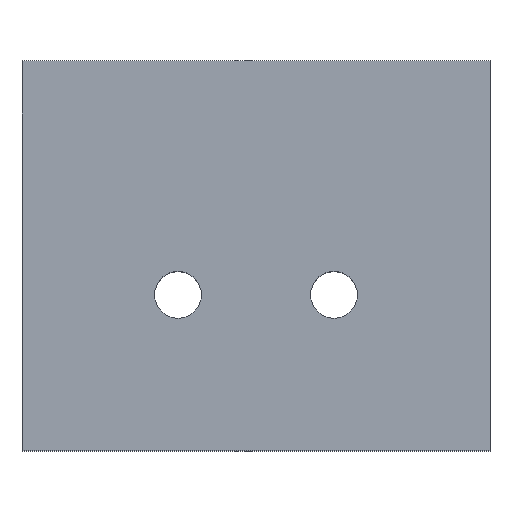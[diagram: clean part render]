
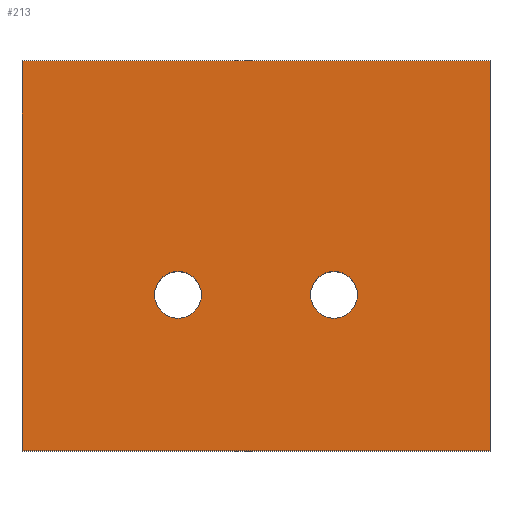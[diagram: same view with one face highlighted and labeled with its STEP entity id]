
A CAD part, top view. The second image highlights one B-rep face of the part: STEP entity #213.
In plain terms, the highlighted planar face has unit normal (0, 0, 1).
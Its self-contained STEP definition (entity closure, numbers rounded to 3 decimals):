
#24 = VERTEX_POINT('',#25);
#25 = CARTESIAN_POINT('',(0.,0.,4.));
#32 = PLANE('',#33);
#33 = AXIS2_PLACEMENT_3D('',#34,#35,#36);
#34 = CARTESIAN_POINT('',(0.,0.,0.));
#35 = DIRECTION('',(1.,0.,-0.));
#36 = DIRECTION('',(0.,0.,1.));
#44 = PLANE('',#45);
#45 = AXIS2_PLACEMENT_3D('',#46,#47,#48);
#46 = CARTESIAN_POINT('',(0.,0.,0.));
#47 = DIRECTION('',(-0.,1.,0.));
#48 = DIRECTION('',(0.,0.,1.));
#85 = VERTEX_POINT('',#86);
#86 = CARTESIAN_POINT('',(0.,10.,4.));
#100 = PLANE('',#101);
#101 = AXIS2_PLACEMENT_3D('',#102,#103,#104);
#102 = CARTESIAN_POINT('',(0.,10.,0.));
#103 = DIRECTION('',(-0.,1.,0.));
#104 = DIRECTION('',(0.,0.,1.));
#112 = EDGE_CURVE('',#24,#85,#113,.T.);
#113 = SURFACE_CURVE('',#114,(#118,#125),.PCURVE_S1.);
#114 = LINE('',#115,#116);
#115 = CARTESIAN_POINT('',(0.,0.,4.));
#116 = VECTOR('',#117,1.);
#117 = DIRECTION('',(-0.,1.,0.));
#118 = PCURVE('',#32,#119);
#119 = DEFINITIONAL_REPRESENTATION('',(#120),#124);
#120 = LINE('',#121,#122);
#121 = CARTESIAN_POINT('',(4.,0.));
#122 = VECTOR('',#123,1.);
#123 = DIRECTION('',(0.,-1.));
#124 = ( GEOMETRIC_REPRESENTATION_CONTEXT(2) 
PARAMETRIC_REPRESENTATION_CONTEXT() REPRESENTATION_CONTEXT('2D SPACE',''
  ) );
#125 = PCURVE('',#126,#131);
#126 = PLANE('',#127);
#127 = AXIS2_PLACEMENT_3D('',#128,#129,#130);
#128 = CARTESIAN_POINT('',(0.,0.,4.));
#129 = DIRECTION('',(0.,0.,1.));
#130 = DIRECTION('',(1.,0.,-0.));
#131 = DEFINITIONAL_REPRESENTATION('',(#132),#136);
#132 = LINE('',#133,#134);
#133 = CARTESIAN_POINT('',(0.,0.));
#134 = VECTOR('',#135,1.);
#135 = DIRECTION('',(0.,1.));
#136 = ( GEOMETRIC_REPRESENTATION_CONTEXT(2) 
PARAMETRIC_REPRESENTATION_CONTEXT() REPRESENTATION_CONTEXT('2D SPACE',''
  ) );
#165 = EDGE_CURVE('',#24,#166,#168,.T.);
#166 = VERTEX_POINT('',#167);
#167 = CARTESIAN_POINT('',(12.,0.,4.));
#168 = SURFACE_CURVE('',#169,(#173,#180),.PCURVE_S1.);
#169 = LINE('',#170,#171);
#170 = CARTESIAN_POINT('',(0.,0.,4.));
#171 = VECTOR('',#172,1.);
#172 = DIRECTION('',(1.,0.,-0.));
#173 = PCURVE('',#44,#174);
#174 = DEFINITIONAL_REPRESENTATION('',(#175),#179);
#175 = LINE('',#176,#177);
#176 = CARTESIAN_POINT('',(4.,0.));
#177 = VECTOR('',#178,1.);
#178 = DIRECTION('',(0.,1.));
#179 = ( GEOMETRIC_REPRESENTATION_CONTEXT(2) 
PARAMETRIC_REPRESENTATION_CONTEXT() REPRESENTATION_CONTEXT('2D SPACE',''
  ) );
#180 = PCURVE('',#126,#181);
#181 = DEFINITIONAL_REPRESENTATION('',(#182),#186);
#182 = LINE('',#183,#184);
#183 = CARTESIAN_POINT('',(0.,0.));
#184 = VECTOR('',#185,1.);
#185 = DIRECTION('',(1.,0.));
#186 = ( GEOMETRIC_REPRESENTATION_CONTEXT(2) 
PARAMETRIC_REPRESENTATION_CONTEXT() REPRESENTATION_CONTEXT('2D SPACE',''
  ) );
#202 = PLANE('',#203);
#203 = AXIS2_PLACEMENT_3D('',#204,#205,#206);
#204 = CARTESIAN_POINT('',(12.,0.,0.));
#205 = DIRECTION('',(1.,0.,-0.));
#206 = DIRECTION('',(0.,0.,1.));
#213 = ADVANCED_FACE('',(#214,#262,#293),#126,.T.);
#214 = FACE_BOUND('',#215,.T.);
#215 = EDGE_LOOP('',(#216,#217,#218,#241));
#216 = ORIENTED_EDGE('',*,*,#112,.F.);
#217 = ORIENTED_EDGE('',*,*,#165,.T.);
#218 = ORIENTED_EDGE('',*,*,#219,.T.);
#219 = EDGE_CURVE('',#166,#220,#222,.T.);
#220 = VERTEX_POINT('',#221);
#221 = CARTESIAN_POINT('',(12.,10.,4.));
#222 = SURFACE_CURVE('',#223,(#227,#234),.PCURVE_S1.);
#223 = LINE('',#224,#225);
#224 = CARTESIAN_POINT('',(12.,0.,4.));
#225 = VECTOR('',#226,1.);
#226 = DIRECTION('',(-0.,1.,0.));
#227 = PCURVE('',#126,#228);
#228 = DEFINITIONAL_REPRESENTATION('',(#229),#233);
#229 = LINE('',#230,#231);
#230 = CARTESIAN_POINT('',(12.,0.));
#231 = VECTOR('',#232,1.);
#232 = DIRECTION('',(0.,1.));
#233 = ( GEOMETRIC_REPRESENTATION_CONTEXT(2) 
PARAMETRIC_REPRESENTATION_CONTEXT() REPRESENTATION_CONTEXT('2D SPACE',''
  ) );
#234 = PCURVE('',#202,#235);
#235 = DEFINITIONAL_REPRESENTATION('',(#236),#240);
#236 = LINE('',#237,#238);
#237 = CARTESIAN_POINT('',(4.,0.));
#238 = VECTOR('',#239,1.);
#239 = DIRECTION('',(0.,-1.));
#240 = ( GEOMETRIC_REPRESENTATION_CONTEXT(2) 
PARAMETRIC_REPRESENTATION_CONTEXT() REPRESENTATION_CONTEXT('2D SPACE',''
  ) );
#241 = ORIENTED_EDGE('',*,*,#242,.F.);
#242 = EDGE_CURVE('',#85,#220,#243,.T.);
#243 = SURFACE_CURVE('',#244,(#248,#255),.PCURVE_S1.);
#244 = LINE('',#245,#246);
#245 = CARTESIAN_POINT('',(0.,10.,4.));
#246 = VECTOR('',#247,1.);
#247 = DIRECTION('',(1.,0.,-0.));
#248 = PCURVE('',#126,#249);
#249 = DEFINITIONAL_REPRESENTATION('',(#250),#254);
#250 = LINE('',#251,#252);
#251 = CARTESIAN_POINT('',(0.,10.));
#252 = VECTOR('',#253,1.);
#253 = DIRECTION('',(1.,0.));
#254 = ( GEOMETRIC_REPRESENTATION_CONTEXT(2) 
PARAMETRIC_REPRESENTATION_CONTEXT() REPRESENTATION_CONTEXT('2D SPACE',''
  ) );
#255 = PCURVE('',#100,#256);
#256 = DEFINITIONAL_REPRESENTATION('',(#257),#261);
#257 = LINE('',#258,#259);
#258 = CARTESIAN_POINT('',(4.,0.));
#259 = VECTOR('',#260,1.);
#260 = DIRECTION('',(0.,1.));
#261 = ( GEOMETRIC_REPRESENTATION_CONTEXT(2) 
PARAMETRIC_REPRESENTATION_CONTEXT() REPRESENTATION_CONTEXT('2D SPACE',''
  ) );
#262 = FACE_BOUND('',#263,.T.);
#263 = EDGE_LOOP('',(#264));
#264 = ORIENTED_EDGE('',*,*,#265,.F.);
#265 = EDGE_CURVE('',#266,#266,#268,.T.);
#266 = VERTEX_POINT('',#267);
#267 = CARTESIAN_POINT('',(4.6,4.,4.));
#268 = SURFACE_CURVE('',#269,(#274,#281),.PCURVE_S1.);
#269 = CIRCLE('',#270,0.6);
#270 = AXIS2_PLACEMENT_3D('',#271,#272,#273);
#271 = CARTESIAN_POINT('',(4.,4.,4.));
#272 = DIRECTION('',(0.,0.,1.));
#273 = DIRECTION('',(1.,0.,-0.));
#274 = PCURVE('',#126,#275);
#275 = DEFINITIONAL_REPRESENTATION('',(#276),#280);
#276 = CIRCLE('',#277,0.6);
#277 = AXIS2_PLACEMENT_2D('',#278,#279);
#278 = CARTESIAN_POINT('',(4.,4.));
#279 = DIRECTION('',(1.,0.));
#280 = ( GEOMETRIC_REPRESENTATION_CONTEXT(2) 
PARAMETRIC_REPRESENTATION_CONTEXT() REPRESENTATION_CONTEXT('2D SPACE',''
  ) );
#281 = PCURVE('',#282,#287);
#282 = CYLINDRICAL_SURFACE('',#283,0.6);
#283 = AXIS2_PLACEMENT_3D('',#284,#285,#286);
#284 = CARTESIAN_POINT('',(4.,4.,-2.));
#285 = DIRECTION('',(0.,0.,1.));
#286 = DIRECTION('',(1.,0.,-0.));
#287 = DEFINITIONAL_REPRESENTATION('',(#288),#292);
#288 = LINE('',#289,#290);
#289 = CARTESIAN_POINT('',(0.,6.));
#290 = VECTOR('',#291,1.);
#291 = DIRECTION('',(1.,0.));
#292 = ( GEOMETRIC_REPRESENTATION_CONTEXT(2) 
PARAMETRIC_REPRESENTATION_CONTEXT() REPRESENTATION_CONTEXT('2D SPACE',''
  ) );
#293 = FACE_BOUND('',#294,.T.);
#294 = EDGE_LOOP('',(#295));
#295 = ORIENTED_EDGE('',*,*,#296,.F.);
#296 = EDGE_CURVE('',#297,#297,#299,.T.);
#297 = VERTEX_POINT('',#298);
#298 = CARTESIAN_POINT('',(8.6,4.,4.));
#299 = SURFACE_CURVE('',#300,(#305,#312),.PCURVE_S1.);
#300 = CIRCLE('',#301,0.6);
#301 = AXIS2_PLACEMENT_3D('',#302,#303,#304);
#302 = CARTESIAN_POINT('',(8.,4.,4.));
#303 = DIRECTION('',(0.,0.,1.));
#304 = DIRECTION('',(1.,0.,-0.));
#305 = PCURVE('',#126,#306);
#306 = DEFINITIONAL_REPRESENTATION('',(#307),#311);
#307 = CIRCLE('',#308,0.6);
#308 = AXIS2_PLACEMENT_2D('',#309,#310);
#309 = CARTESIAN_POINT('',(8.,4.));
#310 = DIRECTION('',(1.,0.));
#311 = ( GEOMETRIC_REPRESENTATION_CONTEXT(2) 
PARAMETRIC_REPRESENTATION_CONTEXT() REPRESENTATION_CONTEXT('2D SPACE',''
  ) );
#312 = PCURVE('',#313,#318);
#313 = CYLINDRICAL_SURFACE('',#314,0.6);
#314 = AXIS2_PLACEMENT_3D('',#315,#316,#317);
#315 = CARTESIAN_POINT('',(8.,4.,-2.));
#316 = DIRECTION('',(0.,0.,1.));
#317 = DIRECTION('',(1.,0.,-0.));
#318 = DEFINITIONAL_REPRESENTATION('',(#319),#323);
#319 = LINE('',#320,#321);
#320 = CARTESIAN_POINT('',(0.,6.));
#321 = VECTOR('',#322,1.);
#322 = DIRECTION('',(1.,0.));
#323 = ( GEOMETRIC_REPRESENTATION_CONTEXT(2) 
PARAMETRIC_REPRESENTATION_CONTEXT() REPRESENTATION_CONTEXT('2D SPACE',''
  ) );
